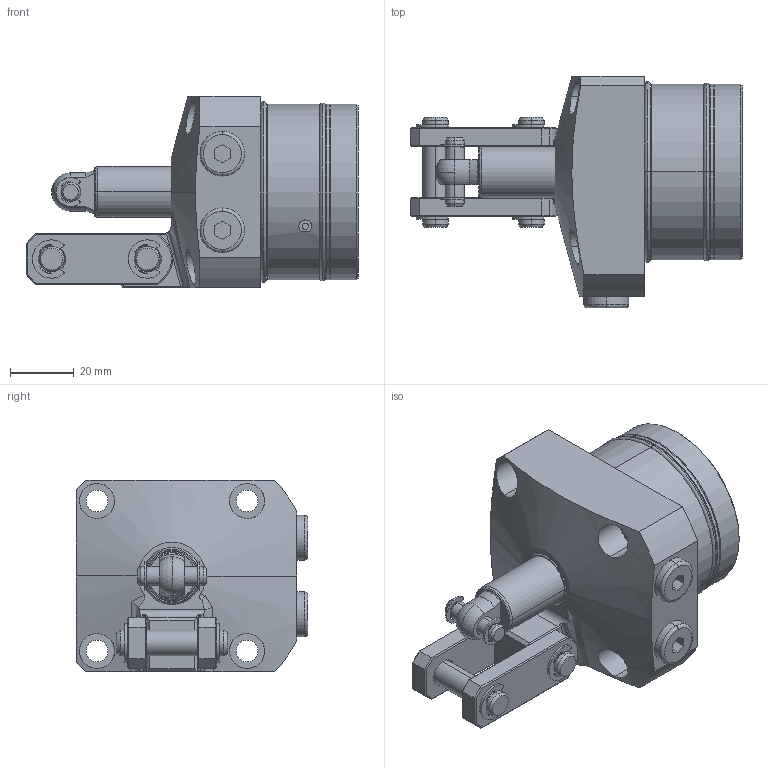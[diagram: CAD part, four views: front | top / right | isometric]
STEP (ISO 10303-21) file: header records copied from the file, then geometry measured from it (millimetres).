
FILE_DESCRIPTION(/* description */ (''),/* implementation_level */ '2;1');
FILE_NAME(/* name */ 'KTPW55-LJ.stp',/* time_stamp */ '2022-11-20T08:12:56+08:00',/* author */ (''),/* organization */ (''),/* preprocessor_version */ 'ST-DEVELOPER v16.7',/* originating_system */ 'SIEMENS PLM Software NX 12.0',/* authorisation */ '');
FILE_SCHEMA (('AP203_CONFIGURATION_CONTROLLED_3D_DESIGN_OF_MECHANICAL_PARTS_AND_ASSEMBLIES_MIM_LF { 1 0 10303 403 2 1 2}'));
Length unit declared in the file: millimetre
Products named in the file (11): KTPW55-LJ-02; KTPW55-LJ-08; KTPW55-LJ-06; KTPW55-LJ-010; KTPW55-LJ-03; KTPW55-LJ-01; KTPW55-LJ-05; KTPW55-LJ-07; KTPW55-LJ-09; KTPW55-LJ-04; LKW0551-CLJ_step
Assembly tree (18 placements, depth 2):
  LKW0551-CLJ_step
    KTPW55-LJ-04  x2
    KTPW55-LJ-09  x2
    KTPW55-LJ-07  x4
    KTPW55-LJ-05  x2
    KTPW55-LJ-01
    KTPW55-LJ-03
    KTPW55-LJ-010  x2
    KTPW55-LJ-06
    KTPW55-LJ-08  x2
    KTPW55-LJ-02
Bounding box: 104 x 72.5 x 60 mm (x, y, z)
Volume: 183820.5 mm3; surface area: 43173.4 mm2
Topology: 20 solids, 20 shells, 639 faces, 1489 edges, 923 vertices
Faces by surface type: cylinder 252, plane 192, torus 106, cone 78, bspline 9, sphere 2
Full cylindrical faces by diameter (mm): 55 x1
Entity records: 13435 total; most frequent: CARTESIAN_POINT 2931, DIRECTION 2069, ORIENTED_EDGE 1756, EDGE_CURVE 878, AXIS2_PLACEMENT_3D 861, VERTEX_POINT 540, CIRCLE 462, EDGE_LOOP 438
